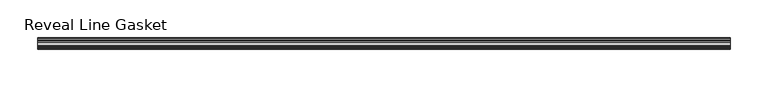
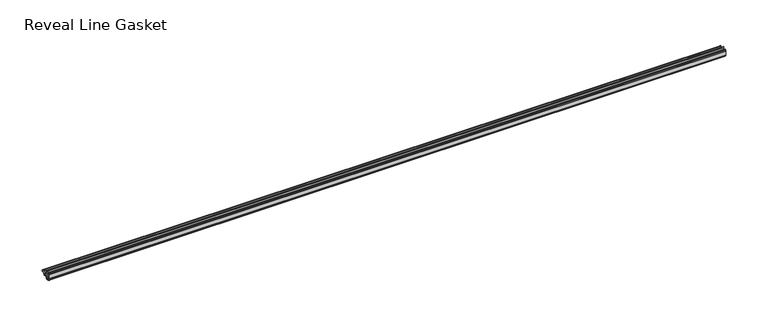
"""IFC4 building model written with IfcOpenShell, lengths in millimetres: proxy geometry, Accessories-Teknion-FHGR-AI_Healthcare-Reveal_Line_Gasket(Horizontal)-R2022 : Reveal Line Gasket."""

from ifc_helpers import new_model, si_unit, point, frame, frame_2d, origin, place, context, project, spatial, polyline, circle_curve, trimmed, segment, composite_curve, outline, extrude, source, transform, mapped, element, save


def reveal_line_gasket_2cd7a0fc(model_context):
    return source(origin(), model_context, "Body", "SweptSolid", [
        extrude(outline(composite_curve([segment(polyline([(-7.6326998, 1603.2), (-7.4091917, 1604.1554927), (-6.8813059, 1605.0884684)]), True, "CONTINUOUS"), segment(trimmed(circle_curve(frame_2d((-6.5243141, 1604.8864793)), 0.4101739), [point((-6.8813059, 1605.0884684))], [point((-6.1246704, 1604.7941347))], False, "CARTESIAN"), True, "CONTINUOUS"), segment(polyline([(-6.1246704, 1604.7941347), (-6.3626997, 1603.0979086), (-6.3626997, 1601.0654527)]), True, "CONTINUOUS"), segment(trimmed(circle_curve(frame_2d((-5.6959605, 1601.4819258)), 0.786124), [point((-6.3626997, 1601.0654527))], [point((-5.0926996, 1600.977875))], True, "CARTESIAN"), True, "CONTINUOUS"), segment(polyline([(-5.0926996, 1600.977875), (-0.7492996, 1600.977875), (-3.7293824, 1606.1395295)]), True, "CONTINUOUS"), segment(trimmed(circle_curve(frame_2d((-3.3132479, 1606.2049761)), 0.4212495), [point((-3.7293824, 1606.1395295))], [point((-3.0485022, 1606.5326358))], False, "CARTESIAN"), True, "CONTINUOUS"), segment(polyline([(-3.0485022, 1606.5326358), (0.5742594, 1600.977875), (4.8262978, 1600.977875), (3.1660374, 1603.8535297)]), True, "CONTINUOUS"), segment(trimmed(circle_curve(frame_2d((3.5978728, 1603.9118855)), 0.4357605), [point((3.1660374, 1603.8535297))], [point((3.864328, 1604.2566881))], False, "CARTESIAN"), True, "CONTINUOUS"), segment(polyline([(3.864328, 1604.2566881), (6.1944059, 1600.977875), (7.6326998, 1600.977875), (7.6326998, 1599.422125), (6.1944059, 1599.422125), (3.864328, 1596.1433119)]), True, "CONTINUOUS"), segment(trimmed(circle_curve(frame_2d((3.5978728, 1596.4881145)), 0.4357605), [point((3.864328, 1596.1433119))], [point((3.1660374, 1596.5464703))], False, "CARTESIAN"), True, "CONTINUOUS"), segment(polyline([(3.1660374, 1596.5464703), (4.8262978, 1599.422125), (0.5742594, 1599.422125), (-3.0485022, 1593.8673642)]), True, "CONTINUOUS"), segment(trimmed(circle_curve(frame_2d((-3.3132479, 1594.1950239)), 0.4212495), [point((-3.0485022, 1593.8673642))], [point((-3.7293824, 1594.2604705))], False, "CARTESIAN"), True, "CONTINUOUS"), segment(polyline([(-3.7293824, 1594.2604705), (-0.7492996, 1599.422125), (-5.0926996, 1599.422125)]), True, "CONTINUOUS"), segment(trimmed(circle_curve(frame_2d((-5.6959605, 1598.9180742)), 0.786124), [point((-5.0926996, 1599.422125))], [point((-6.3626997, 1599.3345473))], True, "CARTESIAN"), True, "CONTINUOUS"), segment(polyline([(-6.3626997, 1599.3345473), (-6.3626997, 1597.3020914), (-6.1246704, 1595.6058653)]), True, "CONTINUOUS"), segment(trimmed(circle_curve(frame_2d((-6.5243141, 1595.5135207)), 0.4101739), [point((-6.1246704, 1595.6058653))], [point((-6.8813059, 1595.3115316))], False, "CARTESIAN"), True, "CONTINUOUS"), segment(polyline([(-6.8813059, 1595.3115316), (-7.4091917, 1596.2445073), (-7.6326998, 1597.2), (-7.6326998, 1603.2)]), True, "CONTINUOUS")], self_intersect=False)), frame((-460.6862302, 0.0, 0.0), z_axis=(1.0, 0.0, 0.0), x_axis=(0.0, 1.0, 0.0)), (0.0, 0.0, 1.0), 921.3724603),
    ])


if __name__ == "__main__":
    model = new_model("IFC4")
    model_context = context("Model", 3, world=origin())
    ifc_project = project(units=[si_unit("LENGTHUNIT", "METRE", prefix="MILLI")], contexts=[model_context])
    site = spatial("IfcSite", under=ifc_project)
    building = spatial("IfcBuilding", under=site)
    placement = place(None, origin())
    reveal_line_gasket_shape = reveal_line_gasket_2cd7a0fc(model_context)
    element("IfcBuildingElementProxy", 1, Name="Accessories-Teknion-FHGR-AI_Healthcare-Reveal_Line_Gasket(Horizontal)-R2022 : Reveal Line Gasket", ObjectType="Accessories-Teknion-FHGR-AI_Healthcare-Reveal_Line_Gasket(Horizontal)-R2022 : Reveal Line Gasket", at=placement, inside=building, context=model_context, shape_type="MappedRepresentation", body=[
        mapped(reveal_line_gasket_shape, transform((0.0, 0.0, 0.0), x_axis=(1.0, 0.0, 0.0), y_axis=(0.0, 1.0, 0.0), z_axis=(0.0, 0.0, 1.0))),
    ])
    save(model, "model.ifc")
